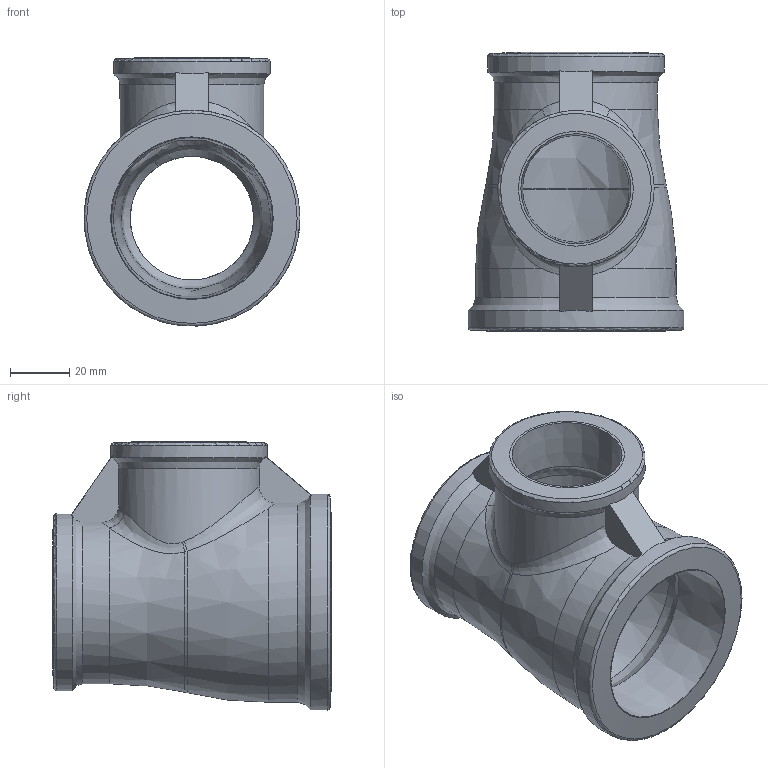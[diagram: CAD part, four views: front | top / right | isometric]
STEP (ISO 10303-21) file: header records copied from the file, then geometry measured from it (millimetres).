
FILE_DESCRIPTION((''),'2;1');
FILE_NAME('P:\Fastrack\53909_CRANE\Crane\Fig.161 Tee\New 2.00 inch\161-2.00x1.50x1.25.stp','2009-09-16T16:25:47',('btaylor'),(''),'Autodesk Inventor 2008','Autodesk Inventor 2008','');
FILE_SCHEMA(('AUTOMOTIVE_DESIGN { 1 0 10303 214 1 1 1 1 }'));
Length unit declared in the file: millimetre
Products named in the file (1): 161-2.00x1.50x1.25
Bounding box: 72.75 x 94 x 90.35 mm (x, y, z)
Volume: 114780.4 mm3; surface area: 43298.1 mm2
Topology: 1 solids, 1 shells, 80 faces, 241 edges, 162 vertices
Faces by surface type: bspline 38, plane 19, cylinder 12, cone 8, torus 3
Full cylindrical faces by diameter (mm): 52.7 x1, 59.6 x1, 72.8 x1
Entity records: 6734 total; most frequent: CARTESIAN_POINT 4805, ORIENTED_EDGE 450, DIRECTION 314, EDGE_CURVE 225, VERTEX_POINT 158, AXIS2_PLACEMENT_3D 138, EDGE_LOOP 95, B_SPLINE_CURVE_WITH_KNOTS 92
